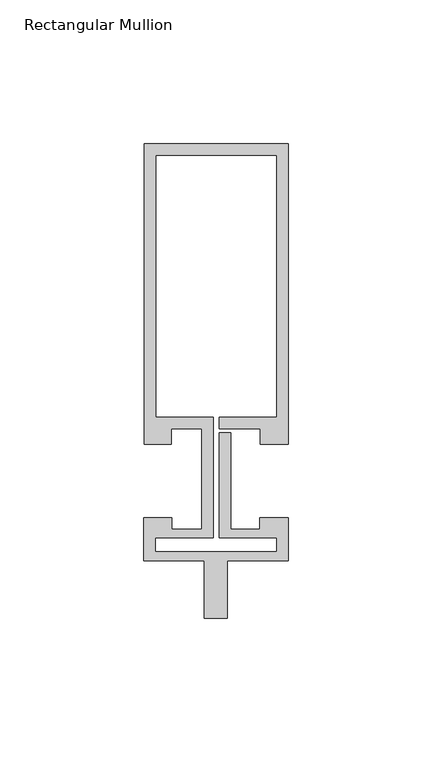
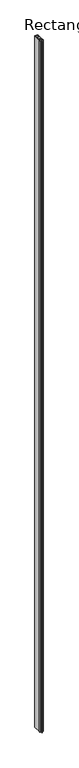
"""IFC4 building model written with IfcOpenShell, lengths in millimetres: member geometry, Rectangular Mullion : Reynaers_CW-50_Transom-Transom_104.5mm_Facecap-06A."""

from ifc_helpers import new_model, si_unit, frame, origin, place, context, project, spatial, polyline, outline, extrude, source, transform, mapped, element, save


def rectangular_mullion_c69a8f91(model_context):
    return source(origin(), model_context, "Body", "SweptSolid", [
        extrude(outline(polyline([(25.1995941, 12.7331291), (15.499, 12.7331291), (15.499, 18.1331291), (1.2995941, 18.1331291), (1.2995941, 22.1331291), (21.1995941, 22.1331291), (21.1995941, 113.2331291), (-20.8004059, 113.2331291), (-20.8004059, 22.1331291), (-0.9004059, 22.1331291), (-0.9004059, -19.7331291), (-20.994845, -19.7331291), (-20.994845, -24.6522629), (21.1995941, -24.6522629), (21.1995941, -19.7331291), (1.2995941, -19.7331291), (1.2995941, 16.7615089), (5.2995941, 16.7615089), (5.2995941, -16.7331291), (15.2996495, -16.7331291), (15.2996495, -12.7331291), (25.1995941, -12.7331291), (25.1995941, -27.7331291), (4.004855, -27.7331291), (4.004855, -47.7331291), (-3.995145, -47.7331291), (-3.995145, -27.7331291), (-24.994845, -27.7331291), (-24.994845, -12.7331291), (-15.2996495, -12.7331291), (-15.2996495, -16.7331291), (-4.9004059, -16.7331291), (-4.9004059, 18.1331291), (-15.499, 18.1331291), (-15.499, 12.7331291), (-24.8004059, 12.7331291), (-24.8004059, 117.2331291), (25.1995941, 117.2331291), (25.1995941, 12.7331291)])), frame((0.0, 0.0, -12000.0), z_axis=(0.0, 0.0, 1.0), x_axis=(1.0, 0.0, 0.0)), (0.0, 0.0, 1.0), 12000.0),
    ])


if __name__ == "__main__":
    model = new_model("IFC4")
    model_context = context("Model", 3, world=origin())
    ifc_project = project(units=[si_unit("LENGTHUNIT", "METRE", prefix="MILLI")], contexts=[model_context])
    site = spatial("IfcSite", under=ifc_project)
    building = spatial("IfcBuilding", under=site)
    placement = place(None, origin())
    rectangular_mullion_shape = rectangular_mullion_c69a8f91(model_context)
    element("IfcMember", 1, ObjectType="Rectangular Mullion : Reynaers_CW-50_Transom-Transom_104.5mm_Facecap-06A", at=placement, inside=building, context=model_context, shape_type="MappedRepresentation", body=[
        mapped(rectangular_mullion_shape, transform((0.0, 0.0, 0.0), x_axis=(1.0, 0.0, 0.0), y_axis=(0.0, 1.0, 0.0), z_axis=(0.0, 0.0, 1.0))),
    ])
    save(model, "model.ifc")
